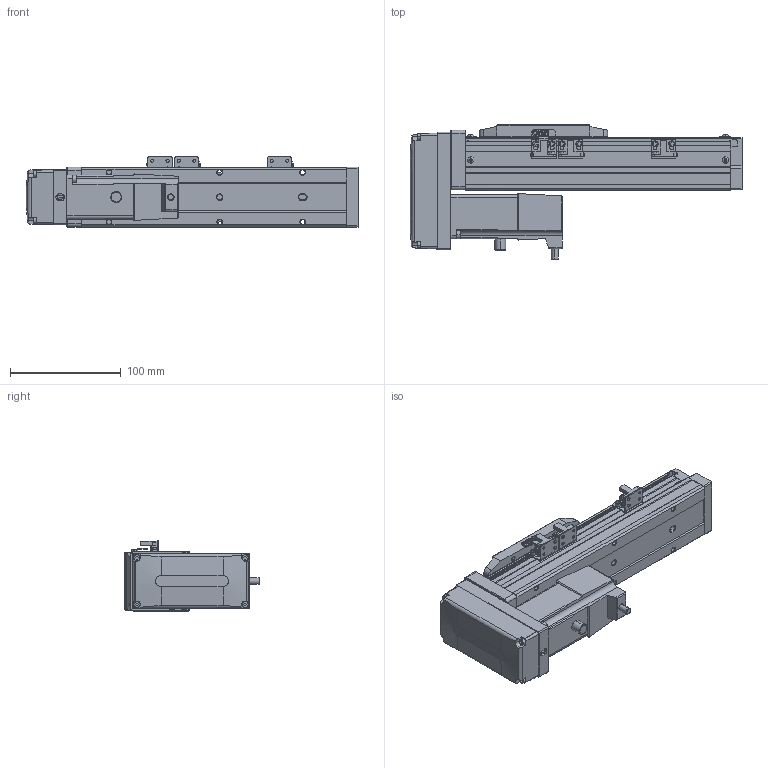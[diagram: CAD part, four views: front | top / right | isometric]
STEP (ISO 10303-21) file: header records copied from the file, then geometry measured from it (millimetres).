
FILE_DESCRIPTION (( 'STEP AP203' ), '1' );
FILE_NAME ('CTH5-L10-S100-BM-C10(¼ò).STEP', '2023-02-04T02:23:38', ( '' ), ( '' ), 'SwSTEP 2.0', 'SolidWorks 2018', '' );
FILE_SCHEMA (( 'CONFIG_CONTROL_DESIGN' ));
Length unit declared in the file: millimetre
Products named in the file (22): CTH5覜茼え; CTH5耜蚾蟀諉啣(潠); CTH5耜蚾欶; CTH5菁釱-L240; CTH5綴耜啣; CTH100W假蚾啣; T10-p1; 100W萇儂; PM-Y45; M3｡｣; CTH嫖萇羲壽假蚾啣; 葩璃 蚾饜极16^CTH5-L10-S100-BM-C10(潠); 嫖萇羲壽郪磁1; CTH5ヶ耜啣(潠); hex nuts, style 1-grades ab gb_GB_FASTENER_NUT_SNAB1 M3-N; CTH5耜晚蹟隊; CTH5耜晚蹟隊-1; 内六角圆柱头螺钉M3-2; 葩璃 蚾饜极13^CTH8-L10-S50-BM-C40(潠)1; CTH5賑怢; CTH5-L10-S100-BM-C10(潠); CTH5-BL-T10_body5
Assembly tree (37 placements, depth 4):
  CTH5-L10-S100-BM-C10(潠)
    CTH5綴耜啣
    CTH5賑怢
    CTH5ヶ耜啣(潠)
    CTH5菁釱-L240
    CTH5耜晚蹟隊  x2
    嫖萇羲壽郪磁1  x2
      CTH嫖萇羲壽假蚾啣
      PM-Y45
      M3｡｣
      内六角圆柱头螺钉M3-2
      hex nuts, style 1-grades ab gb_GB_FASTENER_NUT_SNAB1 M3-N
    CTH5覜茼え
    葩璃 蚾饜极13^CTH8-L10-S50-BM-C40(潠)1
      CTH嫖萇羲壽假蚾啣
      PM-Y45
      内六角圆柱头螺钉M3-2  x2
      M3｡｣  x2
      hex nuts, style 1-grades ab gb_GB_FASTENER_NUT_SNAB1 M3-N  x2
    CTH5耜晚蹟隊-1  x4
    葩璃 蚾饜极16^CTH5-L10-S100-BM-C10(潠)
      CTH5耜蚾蟀諉啣(潠)
      CTH5耜蚾欶
        CTH5-BL-T10_body5
      100W萇儂
        T10-p1
      CTH100W假蚾啣
Bounding box: 300 x 122.21 x 63.3 mm (x, y, z)
Volume: 938552.7 mm3; surface area: 163265.7 mm2
Topology: 39 solids, 39 shells, 1559 faces, 3897 edges, 2524 vertices
Faces by surface type: plane 890, cylinder 452, cone 159, torus 40, bspline 18
Entity records: 35863 total; most frequent: CARTESIAN_POINT 6636, DIRECTION 5621, ORIENTED_EDGE 5418, EDGE_CURVE 2709, AXIS2_PLACEMENT_3D 1916, LINE 1789, VECTOR 1789, VERTEX_POINT 1752
